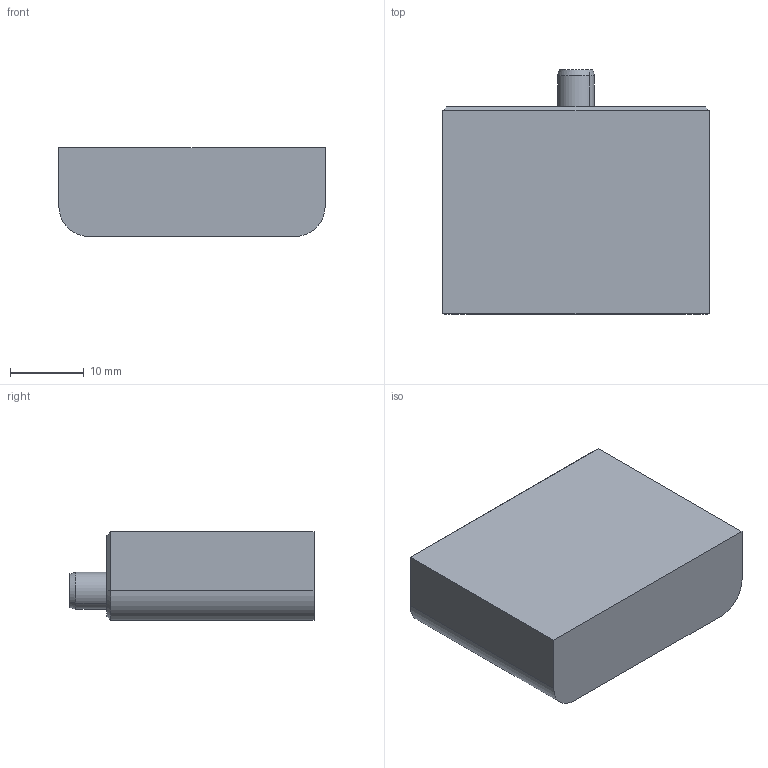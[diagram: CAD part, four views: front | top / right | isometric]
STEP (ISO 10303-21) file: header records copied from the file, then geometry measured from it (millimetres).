
FILE_DESCRIPTION (( 'STEP AP214' ), '1' );
FILE_NAME ('BD122836.STEP', '2013-06-19T07:15:52', ( '' ), ( '' ), 'SwSTEP 2.0', 'SolidWorks 2011', '' );
FILE_SCHEMA (( 'AUTOMOTIVE_DESIGN' ));
Length unit declared in the file: millimetre
Products named in the file (3): BD122836; 9BD122836; Parallel Pin Unhardened_DIN_Parallel Pin ISO 2338 - 5 h6 x 12 - St
Assembly tree (2 placements, depth 2):
  BD122836
    9BD122836
    Parallel Pin Unhardened_DIN_Parallel Pin ISO 2338 - 5 h6 x 12 - St
Bounding box: 36 x 33 x 12 mm (x, y, z)
Volume: 11463.2 mm3; surface area: 4173.1 mm2
Topology: 2 solids, 2 shells, 40 faces, 86 edges, 49 vertices
Faces by surface type: cylinder 14, plane 14, cone 12
Entity records: 1144 total; most frequent: DIRECTION 204, CARTESIAN_POINT 174, ORIENTED_EDGE 160, EDGE_CURVE 80, AXIS2_PLACEMENT_3D 79, VERTEX_POINT 49, LINE 46, VECTOR 46
